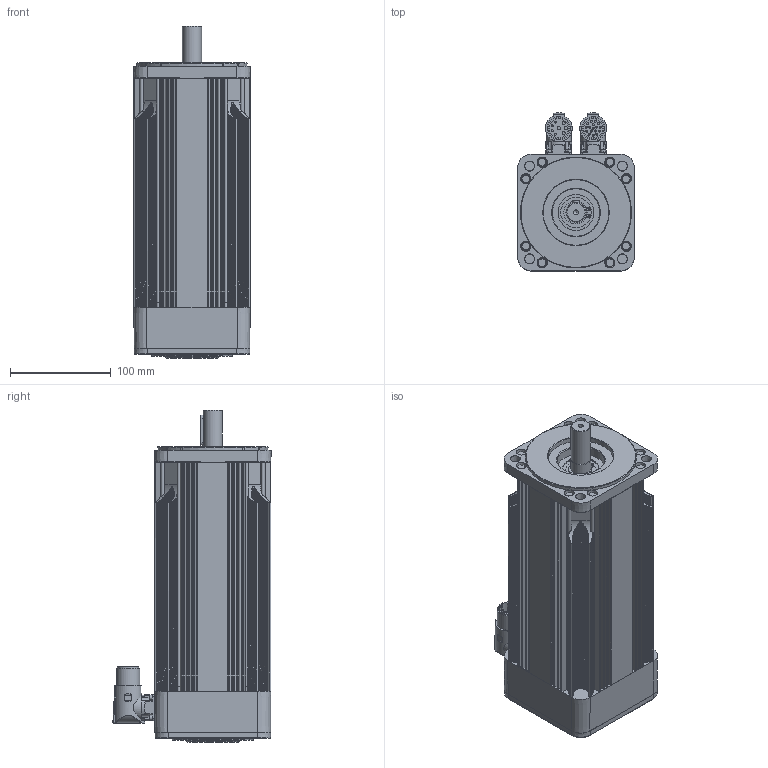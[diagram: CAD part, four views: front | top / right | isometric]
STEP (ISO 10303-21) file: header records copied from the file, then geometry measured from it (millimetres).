
FILE_DESCRIPTION( ( 'Unknown' ), '1' );
FILE_NAME( 'C:/Users/carpi/Desktop/step/Q0A536_9,2.stp', 'Unknown', ( 'Unknown' ), ( 'Unknown' ), 'PSStep 14.0', 'Unknown', ' ' );
FILE_SCHEMA( ( 'AUTOMOTIVE_DESIGN { 1 0 10303 214 1 1 1 1 }' ) );
Length unit declared in the file: millimetre
Products named in the file (26): Assem1; CUSC_20_52_15_6304_ZZ; A-Ela 20 P; N09403; Vite a brugola testa cil 8,8 -  M  4 x 12; N11401; Vite a brugola testa cil 8,8 -  M 2,5 x 8; CN M23 PAN-SEG AEDC 139 17 pin 90°o SpTcR; CN M23 PAN-POT BEDC 110 4+4 pin 90°o SpTcR; LI-PIA   6x6 x 30; N33405; N49400-9,2_fre; N49400-9,2_fre-oa0; N49400-9,2_fre-oa1; N49400-9,2_fre-oa2; N49400-9,2_fre-oa3; N49400-9,2_fre-oa4; N49400-9,2_fre-oa5; N49400-9,2_fre-oa6; N01413; N25400_9,2_FRE
Assembly tree (35 placements, depth 2):
  Assem1
    CUSC_20_52_15_6304_ZZ
    CUSC_20_52_15_6304_ZZ
    CUSC_20_52_15_6304_ZZ
    CUSC_20_52_15_6304_ZZ
    CUSC_20_52_15_6304_ZZ
    CUSC_20_52_15_6304_ZZ
    A-Ela 20 P
    N09403
    Vite a brugola testa cil 8,8 -  M  4 x 12  x4
    N11401
    Vite a brugola testa cil 8,8 -  M 2,5 x 8  x8
    CN M23 PAN-SEG AEDC 139 17 pin 90°o SpTcR
    CN M23 PAN-POT BEDC 110 4+4 pin 90°o SpTcR
    LI-PIA   6x6 x 30
    N33405
    N49400-9,2_fre
    N49400-9,2_fre-oa0
    N49400-9,2_fre-oa1
    N49400-9,2_fre-oa2
    N49400-9,2_fre-oa3
    N49400-9,2_fre-oa4
    N49400-9,2_fre-oa5
    N49400-9,2_fre-oa6
    N01413
    N25400_9,2_FRE
Bounding box: 115.45 x 156.78 x 329 mm (x, y, z)
Volume: 1054786.6 mm3; surface area: 520300.6 mm2
Topology: 35 solids, 36 shells, 1991 faces, 5039 edges, 3195 vertices
Faces by surface type: cylinder 749, plane 614, cone 214, torus 209, bspline 158, sphere 47
Full cylindrical faces by diameter (mm): 2 x21, 2.013 x8, 2.5 x10, 2.7 x8, 3 x4, 3.242 x8, 3.3 x13, 3.4 x8, 4 x12, 4.7 x8, 5 x1, 7 x4, 8 x1, 8.5 x8, 17 x2, 19 x2, 19.8 x2, 20 x6, 21.3 x2, 23 x2, 23.9 x1, 24.5 x2, 24.7 x1, 25 x2, 30.24 x4, 41.76 x4, 44 x1, 47 x4, 49.5 x1, 50.2 x1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
Entity records: 80494 total; most frequent: CARTESIAN_POINT 26575, DIRECTION 8807, ORIENTED_EDGE 8656, EDGE_CURVE 4328, AXIS2_PLACEMENT_3D 3634, VERTEX_POINT 2899, EDGE_LOOP 2290, FACE_OUTER_BOUND 2011
